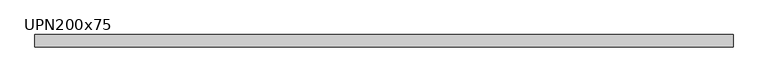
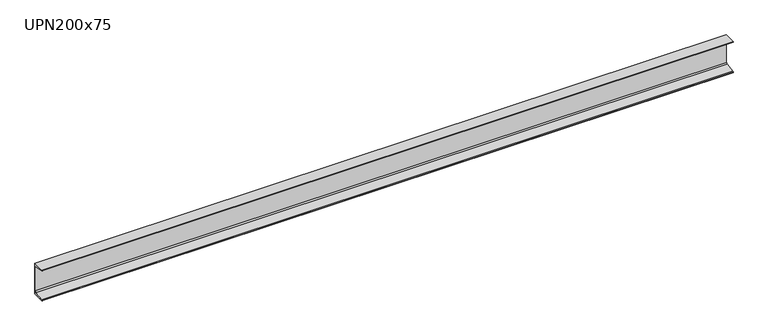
"""IFC4 building model written with IfcOpenShell, lengths in millimetres: beam geometry, M_MC Shapes : UPN200x75."""

from ifc_helpers import new_model, si_unit, point, frame, frame_2d, origin, place, context, project, spatial, polyline, circle_curve, trimmed, segment, composite_curve, outline, extrude, source, transform, mapped, element, save


def upn200x75_a606ac6d(model_context):
    return source(origin(), model_context, "Body", "SweptSolid", [
        extrude(outline(composite_curve([segment(polyline([(10.9, 100.0), (10.9, -100.0), (-64.1, -100.0), (-64.1, -99.0253247)]), True, "CONTINUOUS"), segment(trimmed(circle_curve(frame_2d((-60.15, -99.0253247)), 3.95), [point((-64.1, -99.0253247))], [point((-60.7993773, -95.1290689))], False, "CARTESIAN"), True, "CONTINUOUS"), segment(polyline([(-60.7993773, -95.1290689), (-0.2512455, -85.0376935)]), True, "CONTINUOUS"), segment(trimmed(circle_curve(frame_2d((-1.55, -77.2451819)), 7.9), [point((-0.2512455, -85.0376935))], [point((6.35, -77.2451819))], True, "CARTESIAN"), True, "CONTINUOUS"), segment(polyline([(6.35, -77.2451819), (6.35, 77.2451819)]), True, "CONTINUOUS"), segment(trimmed(circle_curve(frame_2d((-1.55, 77.2451819)), 7.9), [point((6.35, 77.2451819))], [point((-0.2512455, 85.0376935))], True, "CARTESIAN"), True, "CONTINUOUS"), segment(polyline([(-0.2512455, 85.0376935), (-60.7993773, 95.1290689)]), True, "CONTINUOUS"), segment(trimmed(circle_curve(frame_2d((-60.15, 99.0253247)), 3.95), [point((-60.7993773, 95.1290689))], [point((-64.1, 99.0253247))], False, "CARTESIAN"), True, "CONTINUOUS"), segment(polyline([(-64.1, 99.0253247), (-64.1, 100.0), (10.9, 100.0)]), True, "CONTINUOUS")], self_intersect=False)), frame((-2132.15, 0.0, 0.0), z_axis=(1.0, 0.0, 0.0), x_axis=(0.0, 1.0, 0.0)), (0.0, 0.0, 1.0), 4264.3),
    ])


if __name__ == "__main__":
    model = new_model("IFC4")
    model_context = context("Model", 3, world=origin())
    ifc_project = project(units=[si_unit("LENGTHUNIT", "METRE", prefix="MILLI")], contexts=[model_context])
    site = spatial("IfcSite", under=ifc_project)
    building = spatial("IfcBuilding", under=site)
    placement = place(None, origin())
    upn200x75_shape = upn200x75_a606ac6d(model_context)
    element("IfcBeam", 1, ObjectType="M_MC Shapes : UPN200x75", at=placement, inside=building, context=model_context, shape_type="MappedRepresentation", body=[
        mapped(upn200x75_shape, transform((0.0, 0.0, 0.0), x_axis=(1.0, 0.0, 0.0), y_axis=(0.0, 1.0, 0.0), z_axis=(0.0, 0.0, 1.0))),
    ])
    save(model, "model.ifc")
